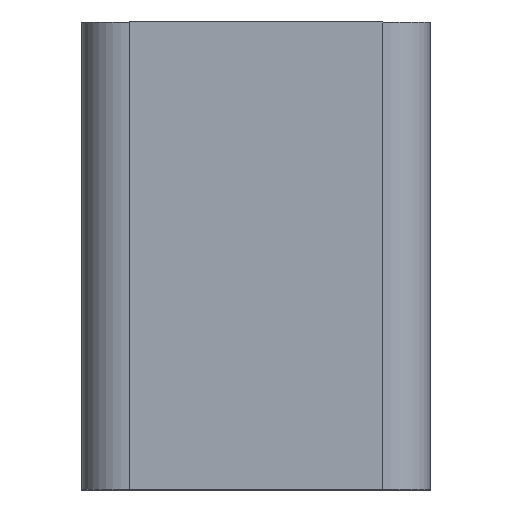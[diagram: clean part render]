
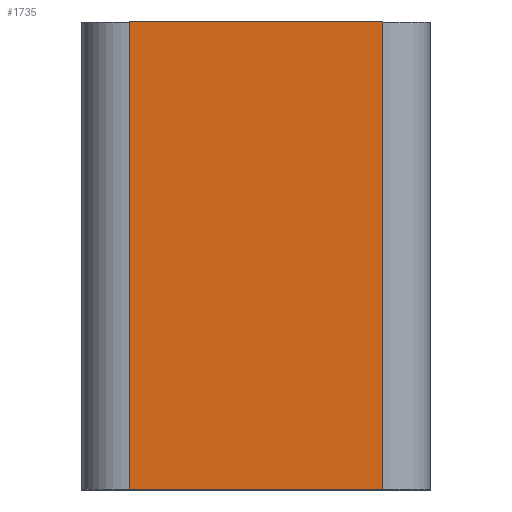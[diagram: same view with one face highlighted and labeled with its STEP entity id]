
A CAD part, top view. The second image highlights one B-rep face of the part: STEP entity #1735.
In plain terms, the highlighted planar face has unit normal (0, 0, 1).
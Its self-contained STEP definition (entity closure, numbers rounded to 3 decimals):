
#42 = VECTOR ( 'NONE', #1503, 1000. ) ;
#139 = ORIENTED_EDGE ( 'NONE', *, *, #2382, .T. ) ;
#173 = ORIENTED_EDGE ( 'NONE', *, *, #2339, .T. ) ;
#189 = LINE ( 'NONE', #1497, #42 ) ;
#286 = FACE_OUTER_BOUND ( 'NONE', #2126, .T. ) ;
#414 = VECTOR ( 'NONE', #1633, 1000. ) ;
#528 = VECTOR ( 'NONE', #1558, 1000. ) ;
#610 = LINE ( 'NONE', #1430, #528 ) ;
#699 = LINE ( 'NONE', #1634, #414 ) ;
#714 = LINE ( 'NONE', #1596, #722 ) ;
#722 = VECTOR ( 'NONE', #1704, 1000. ) ;
#874 = CARTESIAN_POINT ( 'NONE',  ( -8., 29.5, 11. ) ) ;
#1033 = CARTESIAN_POINT ( 'NONE',  ( 8., 0., 11. ) ) ;
#1221 = DIRECTION ( 'NONE',  ( -1., 0., 0. ) ) ;
#1223 = CARTESIAN_POINT ( 'NONE',  ( -11., 29.5, 11. ) ) ;
#1257 = PLANE ( 'NONE',  #1864 ) ;
#1294 = DIRECTION ( 'NONE',  ( 0., 0., -1. ) ) ;
#1359 = CARTESIAN_POINT ( 'NONE',  ( 8., 29.5, 11. ) ) ;
#1376 = CARTESIAN_POINT ( 'NONE',  ( -8., 0., 11. ) ) ;
#1430 = CARTESIAN_POINT ( 'NONE',  ( -11., 0., 11. ) ) ;
#1497 = CARTESIAN_POINT ( 'NONE',  ( 8., 29.5, 11. ) ) ;
#1503 = DIRECTION ( 'NONE',  ( 0., 1., 0. ) ) ;
#1558 = DIRECTION ( 'NONE',  ( 1., 0., 0. ) ) ;
#1596 = CARTESIAN_POINT ( 'NONE',  ( -8., 29.5, 11. ) ) ;
#1633 = DIRECTION ( 'NONE',  ( 1., 0., 0. ) ) ;
#1634 = CARTESIAN_POINT ( 'NONE',  ( -11., 29.5, 11. ) ) ;
#1704 = DIRECTION ( 'NONE',  ( 0., -1., 0. ) ) ;
#1735 = ADVANCED_FACE ( 'NONE', ( #286 ), #1257, .F. ) ;
#1864 = AXIS2_PLACEMENT_3D ( 'NONE', #1223, #1294, #1221 ) ;
#2022 = VERTEX_POINT ( 'NONE', #1359 ) ;
#2037 = VERTEX_POINT ( 'NONE', #1376 ) ;
#2054 = VERTEX_POINT ( 'NONE', #1033 ) ;
#2074 = ORIENTED_EDGE ( 'NONE', *, *, #2437, .T. ) ;
#2094 = VERTEX_POINT ( 'NONE', #874 ) ;
#2126 = EDGE_LOOP ( 'NONE', ( #2196, #2074, #139, #173 ) ) ;
#2196 = ORIENTED_EDGE ( 'NONE', *, *, #2434, .F. ) ;
#2339 = EDGE_CURVE ( 'NONE', #2054, #2022, #189, .T. ) ;
#2382 = EDGE_CURVE ( 'NONE', #2037, #2054, #610, .T. ) ;
#2434 = EDGE_CURVE ( 'NONE', #2094, #2022, #699, .T. ) ;
#2437 = EDGE_CURVE ( 'NONE', #2094, #2037, #714, .T. ) ;
